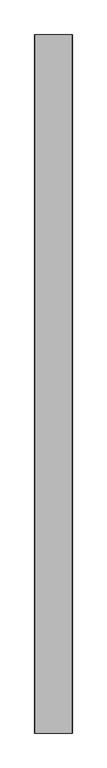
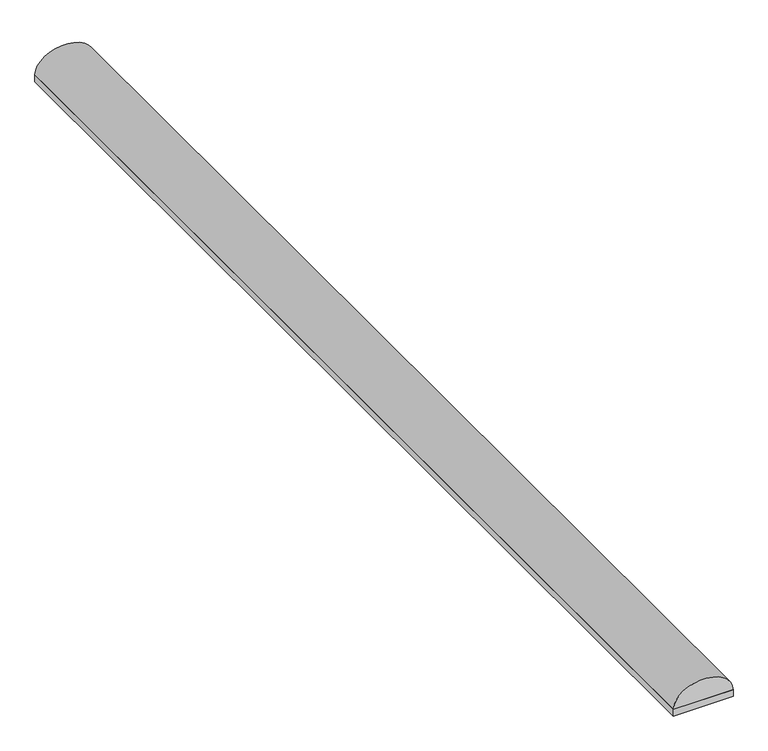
"""IFC4 building model written with IfcOpenShell, lengths in millimetres: proxy geometry, Spinneybeck_ARO Plank 1 : C - 6 1/4 in (15.9 cm)."""

from ifc_helpers import new_model, si_unit, point, frame, origin, origin_with_axes, place, context, project, spatial, polyline, ellipse_curve, trimmed, outline, extrude, source, transform, mapped, element, save
from ifc_brep_helpers import plane_surface, extruded_surface, advanced_brep


def specialty_equipment_4fac8ed0(model_context):
    return source(origin(), model_context, "Body", "SolidModel", [
        advanced_brep(
        [(79.375, 2946.4, 19.05), (-79.375, 2946.4, 19.05), (79.375, 0.0, 19.05), (-79.375, 0.0, 19.05)],
        [
            (0, 1),
            (1, 0, ellipse_curve(frame((0.0, 2946.4, 19.05), z_axis=(0.0, 1.0, 0.0), x_axis=(-1.0, 0.0, 0.0)), 79.375, 57.15)),
            (2, 3, ellipse_curve(frame((0.0, 0.0, 19.05), z_axis=(0.0, -1.0, 0.0), x_axis=(-1.0, 0.0, 0.0)), 79.375, 57.15)),
            (3, 2),
            (0, 2),
            (3, 1),
        ],
        [
            plane_surface(frame((0.0, 2946.4, 0.0), z_axis=(0.0, 1.0, 0.0), x_axis=(0.0, 0.0, 1.0))),
            plane_surface(frame((0.0, 0.0, 0.0), z_axis=(0.0, -1.0, 0.0), x_axis=(0.0, 0.0, 1.0))),
            plane_surface(frame((79.375, 2946.4, 19.05), z_axis=(0.0, 0.0, -1.0), x_axis=(0.0, -1.0, 0.0))),
            extruded_surface(trimmed(ellipse_curve(frame((0.0, 0.0, 19.05), z_axis=(0.0, 1.0, 0.0), x_axis=(-1.0, 0.0, 0.0)), 79.375, 57.15), [point((-79.375, 0.0, 19.05))], [point((79.375, 0.0, 19.05))], True, "CARTESIAN"), (0.0, 2946.4, 0.0), 2946.4),
        ],
        [
            (0, [[1, 2]]),
            (1, [[3, 4]]),
            (2, [[-1, 5, -4, 6]]),
            (3, [[-2, -6, -3, -5]]),
        ],
    ),
        extrude(outline(polyline([(-79.375, 2946.4), (79.375, 2946.4), (79.375, 0.0), (-79.375, 0.0), (-79.375, 2946.4)])), origin_with_axes(), (0.0, 0.0, 1.0), 19.05),
    ])


if __name__ == "__main__":
    model = new_model("IFC4")
    model_context = context("Model", 3, world=origin())
    ifc_project = project(units=[si_unit("LENGTHUNIT", "METRE", prefix="MILLI")], contexts=[model_context])
    site = spatial("IfcSite", under=ifc_project)
    building = spatial("IfcBuilding", under=site)
    placement = place(None, origin())
    specialty_equipment_shape = specialty_equipment_4fac8ed0(model_context)
    element("IfcBuildingElementProxy", 1, Name="Spinneybeck_ARO Plank 1 : C - 6 1/4 in (15.9 cm)", ObjectType="Spinneybeck_ARO Plank 1 : C - 6 1/4 in (15.9 cm)", at=placement, inside=building, context=model_context, shape_type="MappedRepresentation", body=[
        mapped(specialty_equipment_shape, transform((0.0, 0.0, 0.0), x_axis=(1.0, 0.0, 0.0), y_axis=(0.0, 1.0, 0.0), z_axis=(0.0, 0.0, 1.0))),
    ])
    save(model, "model.ifc")
